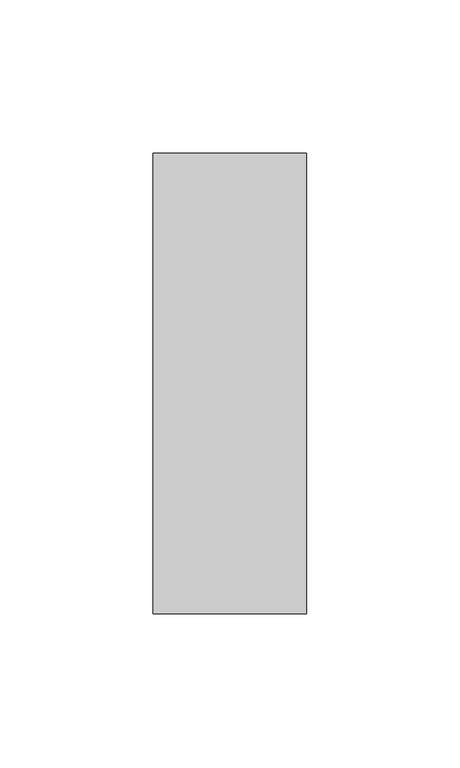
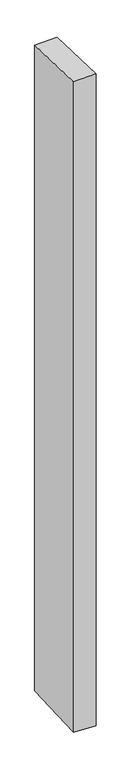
"""IFC4 building model written with IfcOpenShell, lengths in millimetres: member geometry, Прямоугольный импост : 50 x 150 мм."""

from ifc_helpers import new_model, si_unit, origin, place, context, project, spatial, faceted_brep, source, transform, mapped, element, save


def member_b93e55a4(model_context):
    return source(origin(), model_context, "Body", "Brep", [
        faceted_brep([(-25.0, 75.0, -3.2712208), (25.0, 75.0, -1.7916723), (25.0, 75.0, -1522.9408288), (-25.0, 75.0, -1521.4822269), (-25.0, -75.0, 1.7916723), (-25.0, -75.0, -1528.1692401), (25.0, -75.0, 3.2712208), (25.0, -75.0, -1529.6278421)], [[[0, 1, 2, 3]], [[4, 0, 3, 5]], [[6, 4, 5, 7]], [[1, 6, 7, 2]], [[1, 0, 4, 6]], [[2, 7, 5, 3]]]),
    ])


if __name__ == "__main__":
    model = new_model("IFC4")
    model_context = context("Model", 3, world=origin())
    ifc_project = project(units=[si_unit("LENGTHUNIT", "METRE", prefix="MILLI")], contexts=[model_context])
    site = spatial("IfcSite", under=ifc_project)
    building = spatial("IfcBuilding", under=site)
    placement = place(None, origin())
    member_shape = member_b93e55a4(model_context)
    element("IfcMember", 1, ObjectType="Прямоугольный импост : 50 x 150 мм", at=placement, inside=building, context=model_context, shape_type="MappedRepresentation", body=[
        mapped(member_shape, transform((0.0, 0.0, 0.0), x_axis=(1.0, 0.0, 0.0), y_axis=(0.0, 1.0, 0.0), z_axis=(0.0, 0.0, 1.0))),
    ])
    save(model, "model.ifc")
